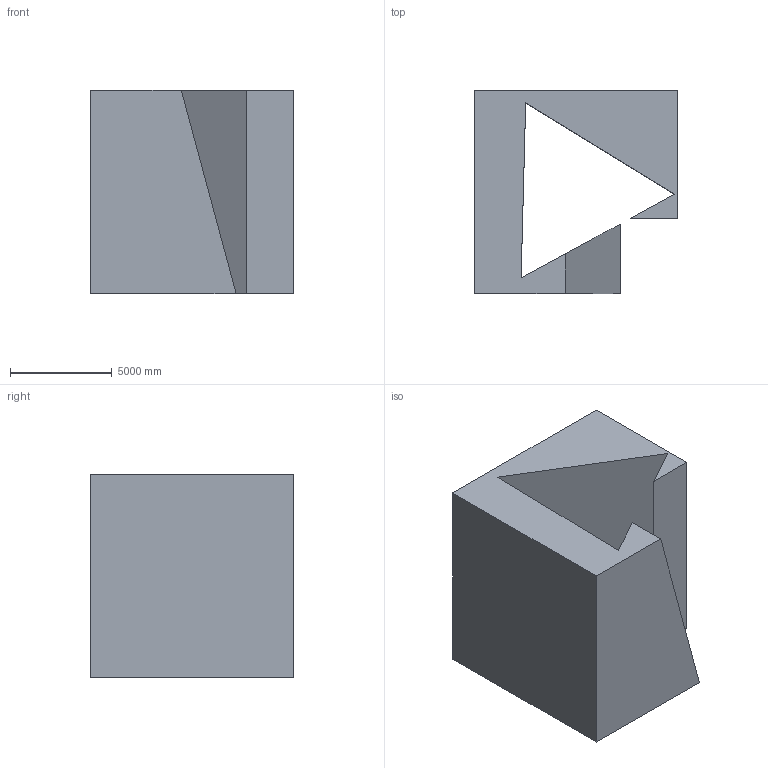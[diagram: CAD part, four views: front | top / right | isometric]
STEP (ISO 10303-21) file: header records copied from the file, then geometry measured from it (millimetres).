
FILE_DESCRIPTION (( 'STEP AP203' ), '1' );
FILE_NAME ('107.STEP', '2022-09-06T13:17:10', ( 'user' ), ( '' ), 'SwSTEP 2.0', 'SolidWorks 2021', '' );
FILE_SCHEMA (( 'CONFIG_CONTROL_DESIGN' ));
Length unit declared in the file: centimetre
Products named in the file (1): 107
Bounding box: 10000 x 10000 x 10000 mm (x, y, z)
Volume: 535437880481.6 mm3; surface area: 717341450 mm2
Topology: 1 solids, 1 shells, 12 faces, 30 edges, 20 vertices
Faces by surface type: plane 12
Entity records: 431 total; most frequent: CARTESIAN_POINT 63, ORIENTED_EDGE 60, DIRECTION 56, LINE 30, EDGE_CURVE 30, VECTOR 30, VERTEX_POINT 20, AXIS2_PLACEMENT_3D 13
